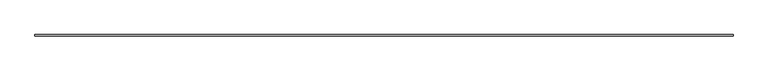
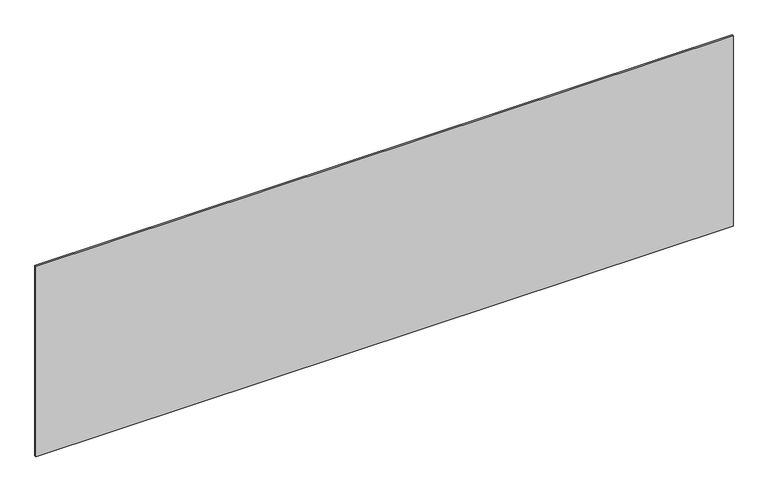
"""IFC4 building model written with IfcOpenShell, lengths in millimetres: plate geometry, システム パネル : 標準."""

import ifcopenshell
import ifcopenshell.guid

model = None  # the IFC model being written
_history = None  # IfcOwnerHistory: only IFC2X3 demands one
_inside = {}  # id of a spatial element -> (the spatial element, [elements in it])
_under = {}  # id of a project, library or spatial element -> (it, [spatial elements below it])
_declared = {}  # id of a project -> (the project, [libraries it declares])
_typed = {}  # id of a type object -> (the type object, [elements of that type])
_made_of = {}  # id of a material, layer set ... -> (it, [elements and type objects made of it])


def new_model(schema):
    """Start an empty IFC model of exactly this schema.

    Asked for "IFC4X3", IfcOpenShell would pick the latest addendum, in which some entities
    have other attributes; the version numbers below select the first issue.
    IFC2X3 requires an IfcOwnerHistory on every rooted entity: one is made here for all.
    """
    global model, _history
    if schema == "IFC4X3":
        model = ifcopenshell.file(schema_version=(4, 3, 0, 0))
    else:
        model = ifcopenshell.file(schema=schema)
    _inside.clear()
    _under.clear()
    _declared.clear()
    _typed.clear()
    _made_of.clear()
    _history = None
    if model.schema == "IFC2X3":
        org = make("IfcOrganization", Name="unknown")
        user = make(
            "IfcPersonAndOrganization",
            ThePerson=make("IfcPerson", FamilyName="unknown"),
            TheOrganization=org,
        )
        app = make(
            "IfcApplication",
            ApplicationDeveloper=org,
            Version="unknown",
            ApplicationFullName="unknown",
            ApplicationIdentifier="unknown",
        )
        _history = make(
            "IfcOwnerHistory",
            OwningUser=user,
            OwningApplication=app,
            ChangeAction="ADDED",
            CreationDate=0,
        )
    return model


def make(cls, **values):
    """One entity of the class cls with the attributes given. An attribute that is None is left unset."""
    return model.create_entity(
        cls, **{name: value for name, value in values.items() if value is not None}
    )


def rooted(cls, **values):
    """An entity with a GlobalId (a new one), such as an element, a storey or a relation."""
    return make(cls, GlobalId=ifcopenshell.guid.new(), OwnerHistory=_history, **values)


def si_unit(unit_type, name, prefix=None):
    """IfcSIUnit, for example si_unit("LENGTHUNIT", "METRE", prefix="MILLI")."""
    return make("IfcSIUnit", UnitType=unit_type, Prefix=prefix, Name=name)


def assignment(units):
    """IfcUnitAssignment: the units of a project."""
    return None if units is None else make("IfcUnitAssignment", Units=units)


def point(xyz):
    """IfcCartesianPoint."""
    return None if xyz is None else make("IfcCartesianPoint", Coordinates=xyz)


def direction(xyz):
    """IfcDirection."""
    return None if xyz is None else make("IfcDirection", DirectionRatios=xyz)


def frame(location, z_axis=None, x_axis=None):
    """IfcAxis2Placement3D, a coordinate frame: its origin and axes. An axis left out is left unset."""
    return make(
        "IfcAxis2Placement3D",
        Location=point(location),
        Axis=direction(z_axis),
        RefDirection=direction(x_axis),
    )


def origin():
    """The frame at (0, 0, 0) with its axes left unset."""
    return frame((0.0, 0.0, 0.0))


def origin_with_axes():
    """The frame at (0, 0, 0) with the z axis (0, 0, 1) and the x axis (1, 0, 0) written out."""
    return frame((0.0, 0.0, 0.0), z_axis=(0.0, 0.0, 1.0), x_axis=(1.0, 0.0, 0.0))


def place(relative_to, where):
    """IfcLocalPlacement: puts the frame where relative to a parent placement (None: the world)."""
    return make(
        "IfcLocalPlacement", PlacementRelTo=relative_to, RelativePlacement=where
    )


def context(
    kind, dimensions, precision=None, world=None, true_north=None, identifier=None
):
    """IfcGeometricRepresentationContext, for example the 3D "Model" context."""
    return make(
        "IfcGeometricRepresentationContext",
        ContextIdentifier=identifier,
        ContextType=kind,
        CoordinateSpaceDimension=dimensions,
        Precision=precision,
        WorldCoordinateSystem=world,
        TrueNorth=true_north,
    )


def project(units=None, contexts=None):
    """IfcProject with its units and contexts."""
    return rooted(
        "IfcProject",
        Name="project",
        RepresentationContexts=contexts,
        UnitsInContext=assignment(units),
    )


def spatial(cls, under=None, at=None, **own):
    """A site, building, storey or space (cls), placed at a placement, below another one or the project."""
    s = rooted(cls, ObjectPlacement=at, **own)
    if under is not None:
        _under.setdefault(under.id(), (under, []))[1].append(s)
    return s


def polyline(points):
    """IfcPolyline through the points."""
    return make("IfcPolyline", Points=[point(p) for p in points])


def outline(outer, holes=None, kind="AREA"):
    """IfcArbitraryClosedProfileDef: a profile drawn as a closed curve; with holes, ...WithVoids."""
    if holes is None:
        return make("IfcArbitraryClosedProfileDef", ProfileType=kind, OuterCurve=outer)
    return make(
        "IfcArbitraryProfileDefWithVoids",
        ProfileType=kind,
        OuterCurve=outer,
        InnerCurves=holes,
    )


def extrude(swept, where, along, depth):
    """IfcExtrudedAreaSolid: the profile swept, set in the frame where, extruded along a direction by depth."""
    return make(
        "IfcExtrudedAreaSolid",
        SweptArea=swept,
        Position=where,
        ExtrudedDirection=direction(along),
        Depth=depth,
    )


def shape(context_of_items, identifier, shape_type, items):
    """IfcShapeRepresentation: the items that make up one representation, for example the "Body"."""
    return make(
        "IfcShapeRepresentation",
        ContextOfItems=context_of_items,
        RepresentationIdentifier=identifier,
        RepresentationType=shape_type,
        Items=items,
    )


def source(mapping_origin, context_of_items, identifier, shape_type, items):
    """IfcRepresentationMap: a shape defined once, which mapped items show again and again."""
    return make(
        "IfcRepresentationMap",
        MappingOrigin=mapping_origin,
        MappedRepresentation=shape(context_of_items, identifier, shape_type, items),
    )


def transform(
    local_origin,
    x_axis=None,
    y_axis=None,
    z_axis=None,
    scale=None,
    scale2=None,
    scale3=None,
    uniform=True,
):
    """IfcCartesianTransformationOperator3D, or its non-uniform kind. x_axis, y_axis, z_axis: its Axis1, 2, 3."""
    if uniform:
        return make(
            "IfcCartesianTransformationOperator3D",
            Axis1=direction(x_axis),
            Axis2=direction(y_axis),
            LocalOrigin=point(local_origin),
            Scale=scale,
            Axis3=direction(z_axis),
        )
    return make(
        "IfcCartesianTransformationOperator3DnonUniform",
        Axis1=direction(x_axis),
        Axis2=direction(y_axis),
        LocalOrigin=point(local_origin),
        Scale=scale,
        Axis3=direction(z_axis),
        Scale2=scale2,
        Scale3=scale3,
    )


def mapped(mapping_source, mapping_target):
    """IfcMappedItem: shows the shape of a source again, moved by a transform."""
    return make(
        "IfcMappedItem", MappingSource=mapping_source, MappingTarget=mapping_target
    )


def made_of(thing, what):
    """Note that an element or type object is made of a material, layer set ...; save() writes the relation."""
    if what is not None:
        _made_of.setdefault(what.id(), (what, []))[1].append(thing)
    return thing


def element(
    cls,
    number,
    at=None,
    inside=None,
    cuts=None,
    type_object=None,
    material=None,
    context=None,
    identifier="Body",
    shape_type=None,
    held_by="IfcProductDefinitionShape",
    body=None,
    shapes=None,
    **own,
):
    """One element of the class cls, such as IfcWall. Its Tag is "e" and its number.

    at: its placement. inside: the storey or other place that contains it. cuts: it is an
    opening in that element (IfcRelVoidsElement). A single representation is given by context,
    identifier, shape_type and body (its items); several are given by shapes. held_by: the class
    of the entity that holds the representations. save() writes the other relations.
    """
    e = rooted(cls, Tag="e%d" % number, ObjectPlacement=at, **own)
    if body is not None:
        shapes = [shape(context, identifier, shape_type, body)]
    if shapes is not None:
        e.Representation = make(held_by, Representations=shapes)
    if inside is not None:
        _inside.setdefault(inside.id(), (inside, []))[1].append(e)
    if cuts is not None:
        rooted(
            "IfcRelVoidsElement", RelatingBuildingElement=cuts, RelatedOpeningElement=e
        )
    if type_object is not None:
        _typed.setdefault(type_object.id(), (type_object, []))[1].append(e)
    return made_of(e, material)


def aggregate(whole, parts):
    """IfcRelAggregates: a whole, such as a stair, and the parts it consists of."""
    return rooted("IfcRelAggregates", RelatingObject=whole, RelatedObjects=parts)


def save(model, path):
    """Write the relations noted so far, then the file.

    IfcRelAggregates (storeys below a building ...), IfcRelContainedInSpatialStructure (elements
    in a storey), IfcRelDefinesByType, IfcRelAssociatesMaterial and IfcRelDeclares: one each for
    every whole, place, type object, material and project.
    """
    for whole, parts in _under.values():
        aggregate(whole, parts)
    for where, things in _inside.values():
        rooted(
            "IfcRelContainedInSpatialStructure",
            RelatedElements=things,
            RelatingStructure=where,
        )
    for kind, things in _typed.values():
        rooted("IfcRelDefinesByType", RelatedObjects=things, RelatingType=kind)
    for what, things in _made_of.values():
        rooted("IfcRelAssociatesMaterial", RelatedObjects=things, RelatingMaterial=what)
    for by, libraries in _declared.values():
        rooted("IfcRelDeclares", RelatingContext=by, RelatedDefinitions=libraries)
    model.write(path)


def plate_3db5e68d(model_context):
    return source(origin(), model_context, "Body", "SweptSolid", [
        extrude(outline(polyline([(2281.6666667, -5.0), (-2281.6666667, -5.0), (-2281.6666667, 5.0), (2281.6666667, 5.0), (2281.6666667, -5.0)])), origin_with_axes(), (0.0, 0.0, 1.0), 1318.3749289),
    ])


if __name__ == "__main__":
    model = new_model("IFC4")
    model_context = context("Model", 3, world=origin())
    ifc_project = project(units=[si_unit("LENGTHUNIT", "METRE", prefix="MILLI")], contexts=[model_context])
    site = spatial("IfcSite", under=ifc_project)
    building = spatial("IfcBuilding", under=site)
    placement = place(None, origin())
    plate_shape = plate_3db5e68d(model_context)
    element("IfcPlate", 1, ObjectType="システム パネル : 標準", at=placement, inside=building, context=model_context, shape_type="MappedRepresentation", body=[
        mapped(plate_shape, transform((0.0, 0.0, 0.0), x_axis=(1.0, 0.0, 0.0), y_axis=(0.0, 1.0, 0.0), z_axis=(0.0, 0.0, 1.0))),
    ])
    save(model, "model.ifc")
